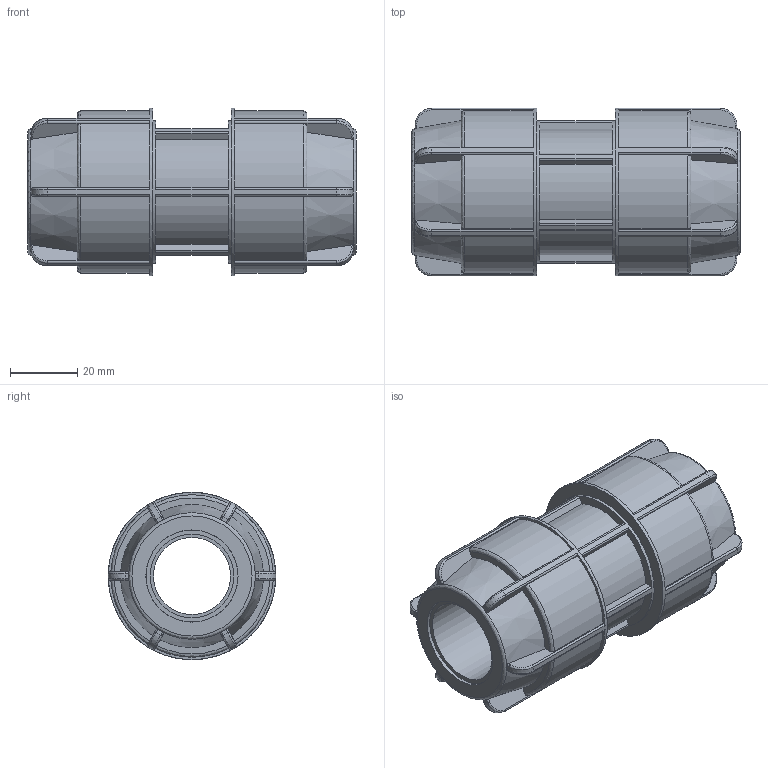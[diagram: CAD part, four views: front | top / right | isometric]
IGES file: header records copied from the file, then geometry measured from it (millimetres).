
Global section: file name: 140100025.ipt; native system: Autodesk Inventor 2015; preprocessor: unknown; author: KIM; date: 20180612.155248; units: millimetre
Bounding box: 98 x 50 x 50 mm (x, y, z)
Volume: 102103.2 mm3; surface area: 27329.2 mm2
Topology: 1 solids, 1 shells, 230 faces, 609 edges, 392 vertices
Faces by surface type: plane 92, cylinder 81, revolution 31, bspline 24, cone 2
Full cylindrical faces by diameter (mm): 42.5 x1, 50 x2
